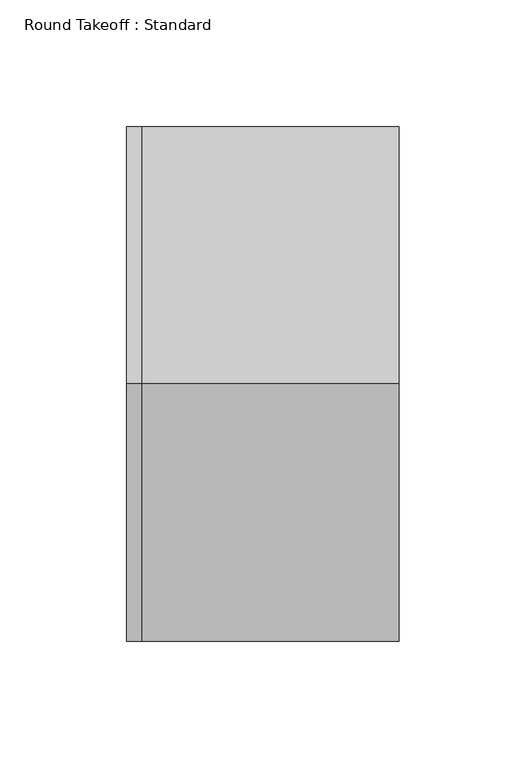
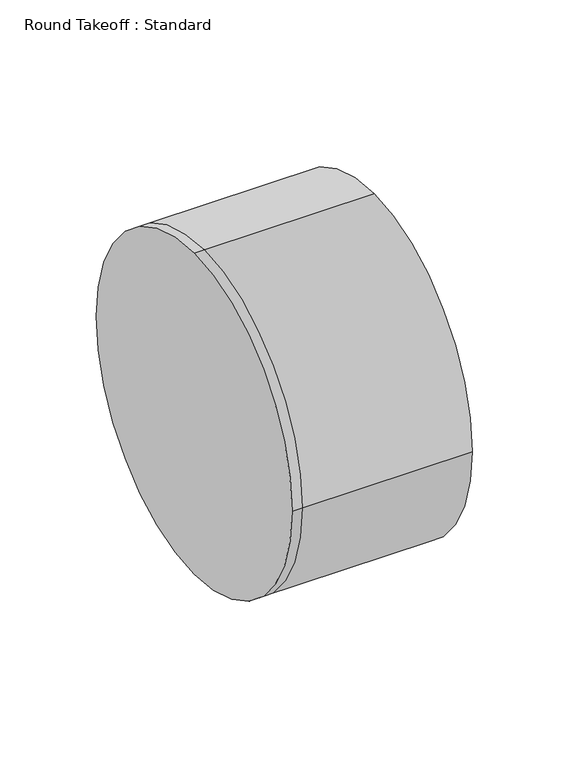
"""IFC4 building model written with IfcOpenShell, lengths in millimetres: duct fitting geometry, Round Takeoff : Standard."""

from ifc_helpers import new_model, si_unit, frame, origin, place, context, project, spatial, circle_curve, source, transform, mapped, element, save
from ifc_brep_helpers import plane_surface, cylinder_surface, advanced_brep


def round_takeoff_standard_d3b0d0f9(model_context):
    return source(origin(), model_context, "Body", "AdvancedBrep", [
        advanced_brep(
        [(101.6, 0.0, 101.6), (101.6, -101.6, 0.0), (101.6, 0.0, -101.6), (101.6, 101.6, 0.0), (0.0, 0.0, 101.6), (0.0, -101.6, 0.0), (0.0, 0.0, -101.6), (0.0, 101.6, 0.0), (-6.096, 0.0, 101.6), (-6.096, 101.6, 0.0), (-6.096, 0.0, -101.6), (-6.096, -101.6, 0.0)],
        [
            (0, 1, circle_curve(frame((101.6, 0.0, 0.0), z_axis=(1.0, 0.0, 0.0), x_axis=(0.0, -1.0, 0.0)), 101.6)),
            (1, 2, circle_curve(frame((101.6, 0.0, 0.0), z_axis=(1.0, 0.0, 0.0), x_axis=(0.0, -1.0, 0.0)), 101.6)),
            (2, 3, circle_curve(frame((101.6, 0.0, 0.0), z_axis=(1.0, 0.0, 0.0), x_axis=(0.0, -1.0, 0.0)), 101.6)),
            (3, 0, circle_curve(frame((101.6, 0.0, 0.0), z_axis=(1.0, 0.0, 0.0), x_axis=(0.0, -1.0, 0.0)), 101.6)),
            (0, 4),
            (4, 5, circle_curve(frame((0.0, 0.0, 0.0), z_axis=(1.0, 0.0, 0.0), x_axis=(0.0, -1.0, 0.0)), 101.6)),
            (5, 1),
            (5, 6, circle_curve(frame((0.0, 0.0, 0.0), z_axis=(1.0, 0.0, 0.0), x_axis=(0.0, -1.0, 0.0)), 101.6)),
            (6, 2),
            (6, 7, circle_curve(frame((0.0, 0.0, 0.0), z_axis=(1.0, 0.0, 0.0), x_axis=(0.0, -1.0, 0.0)), 101.6)),
            (7, 3),
            (7, 4, circle_curve(frame((0.0, 0.0, 0.0), z_axis=(1.0, 0.0, 0.0), x_axis=(0.0, -1.0, 0.0)), 101.6)),
            (8, 9, circle_curve(frame((-6.096, 0.0, 0.0), z_axis=(-1.0, 0.0, 0.0), x_axis=(0.0, -1.0, 0.0)), 101.6)),
            (9, 10, circle_curve(frame((-6.096, 0.0, 0.0), z_axis=(-1.0, 0.0, 0.0), x_axis=(0.0, -1.0, 0.0)), 101.6)),
            (10, 11, circle_curve(frame((-6.096, 0.0, 0.0), z_axis=(-1.0, 0.0, 0.0), x_axis=(0.0, -1.0, 0.0)), 101.6)),
            (11, 8, circle_curve(frame((-6.096, 0.0, 0.0), z_axis=(-1.0, 0.0, 0.0), x_axis=(0.0, -1.0, 0.0)), 101.6)),
            (11, 5),
            (4, 8),
            (10, 6),
            (9, 7),
        ],
        [
            plane_surface(frame((101.6, 0.0, 0.0), z_axis=(1.0, 0.0, 0.0), x_axis=(0.0, 0.0, 1.0))),
            cylinder_surface(frame((0.0, 0.0, 0.0), z_axis=(-1.0, 0.0, 0.0), x_axis=(0.0, -1.0, 0.0)), 101.6),
            plane_surface(frame((-6.096, 0.0, 0.0), z_axis=(-1.0, 0.0, 0.0), x_axis=(0.0, 0.0, 1.0))),
            cylinder_surface(frame((-6.096, 0.0, 0.0), z_axis=(-1.0, 0.0, 0.0), x_axis=(0.0, -1.0, 0.0)), 101.6),
        ],
        [
            (0, [[1, 2, 3, 4]]),
            (1, [[5, 6, 7, -1]]),
            (1, [[-7, 8, 9, -2]]),
            (1, [[-9, 10, 11, -3]]),
            (1, [[-11, 12, -5, -4]]),
            (2, [[13, 14, 15, 16]]),
            (3, [[17, -6, 18, -16]]),
            (3, [[19, -8, -17, -15]]),
            (3, [[20, -10, -19, -14]]),
            (3, [[-18, -12, -20, -13]]),
        ],
    ),
    ])


if __name__ == "__main__":
    model = new_model("IFC4")
    model_context = context("Model", 3, world=origin())
    ifc_project = project(units=[si_unit("LENGTHUNIT", "METRE", prefix="MILLI")], contexts=[model_context])
    site = spatial("IfcSite", under=ifc_project)
    building = spatial("IfcBuilding", under=site)
    placement = place(None, origin())
    round_takeoff_standard_shape = round_takeoff_standard_d3b0d0f9(model_context)
    element("IfcDuctFitting", 1, ObjectType="Round Takeoff : Standard", at=placement, inside=building, context=model_context, shape_type="MappedRepresentation", body=[
        mapped(round_takeoff_standard_shape, transform((0.0, 0.0, 0.0), x_axis=(1.0, 0.0, 0.0), y_axis=(0.0, 1.0, 0.0), z_axis=(0.0, 0.0, 1.0))),
    ])
    save(model, "model.ifc")
